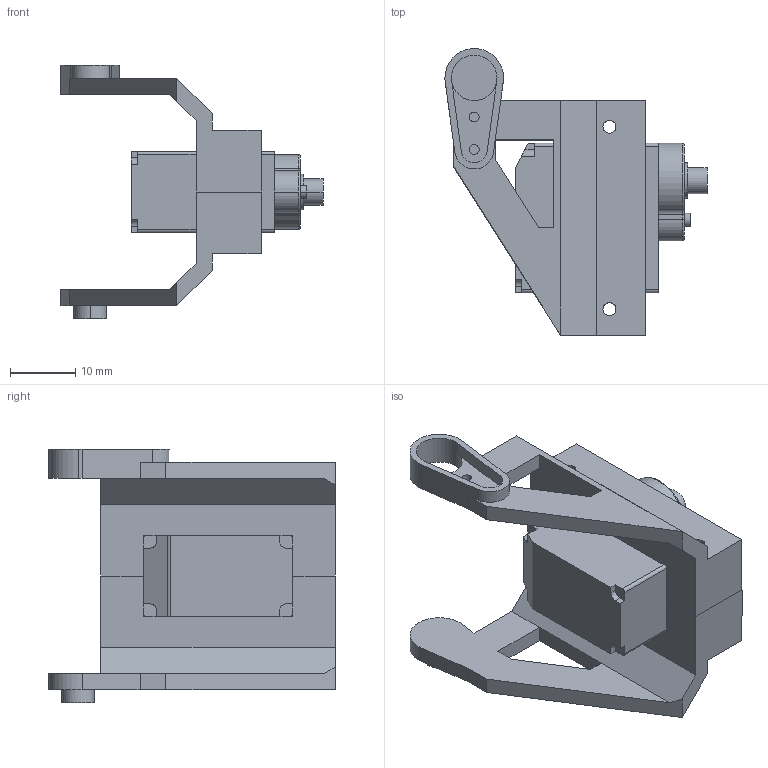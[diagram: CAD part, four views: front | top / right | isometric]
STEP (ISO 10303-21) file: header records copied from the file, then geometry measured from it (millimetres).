
FILE_DESCRIPTION (( 'STEP AP203' ), '1' );
FILE_NAME ('嗆儂旋.S', '2026-09-16T02:57:05', ( '' ), ( '' ), 'SwSTEP 2.0', 'SolidWorks 2024', '' );
FILE_SCHEMA (( 'CONFIG_CONTROL_DESIGN' ));
Length unit declared in the file: millimetre
Products named in the file (4): 左臂; 9G舵机; 右臂; 舵机臂
Assembly tree (3 placements, depth 2):
  舵机臂
    9G舵机
    右臂
    左臂
Bounding box: 40.27 x 44 x 39 mm (x, y, z)
Volume: 13864.1 mm3; surface area: 9130 mm2
Topology: 3 solids, 3 shells, 174 faces, 470 edges, 303 vertices
Faces by surface type: plane 113, cylinder 56, torus 5
Entity records: 5886 total; most frequent: CARTESIAN_POINT 959, DIRECTION 950, ORIENTED_EDGE 940, EDGE_CURVE 470, LINE 346, VECTOR 346, VERTEX_POINT 303, AXIS2_PLACEMENT_3D 302
